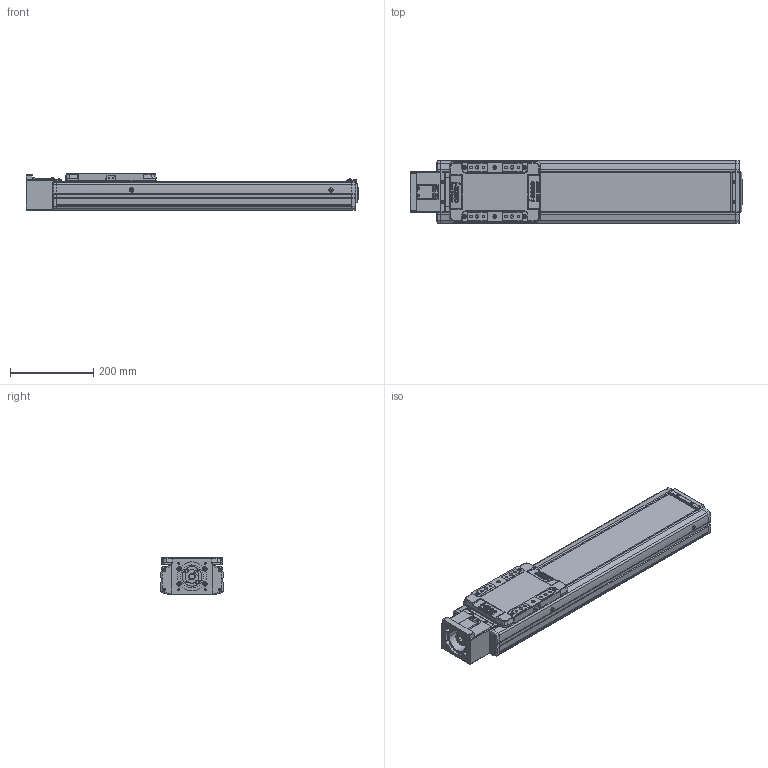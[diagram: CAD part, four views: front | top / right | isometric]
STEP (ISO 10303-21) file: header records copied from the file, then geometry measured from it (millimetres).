
FILE_DESCRIPTION(('STEP AP214'),'1');
FILE_NAME('Z:/Web/3D/SAN150/2013.04 (STP.)/SAN150ㅁㅁ-450S.stp','2013-05-07T23:49:32',(' '),(' '),'Spatial InterOp 3D',' ',' ');
FILE_SCHEMA(('automotive_design'));
Length unit declared in the file: millimetre
Products named in the file (75): SLBL-SAN150; SLCV-SAN150; FHCS M4.0 x 8.0; BHCS M4.0 x 10.0; SFX-SAN150; RRCV-SAN150; FRBL-SAN150; Spacer; RN15; FRCV-SAN150; Screw 20; BASE-SAN150-000L ; SUS COVER; 스크루 : Round - M5.0 x 6.0; BHCS M3.0 x 6.0; SSFX-SAN65; CPLCV-SAN65; SDWA47C(2); SDWA47C(3-1); SDWA47C(3); SDWA47C(1); SDWA47C(4); SDWA47C(5); MTHZ-SAN150-80
Bounding box: 799 x 150 x 90 mm (x, y, z)
Volume: 4746372.7 mm3; surface area: 907172.2 mm2
Topology: 75 solids, 75 shells, 2815 faces, 7319 edges, 4721 vertices
Faces by surface type: plane 1200, cylinder 1149, cone 365, sphere 56, bspline 29, torus 16
Entity records: 113630 total; most frequent: CARTESIAN_POINT 18452, DIRECTION 15927, ORIENTED_EDGE 14422, EDGE_CURVE 7211, AXIS2_PLACEMENT_3D 6003, VERTEX_POINT 4721, LINE 3921, VECTOR 3921
